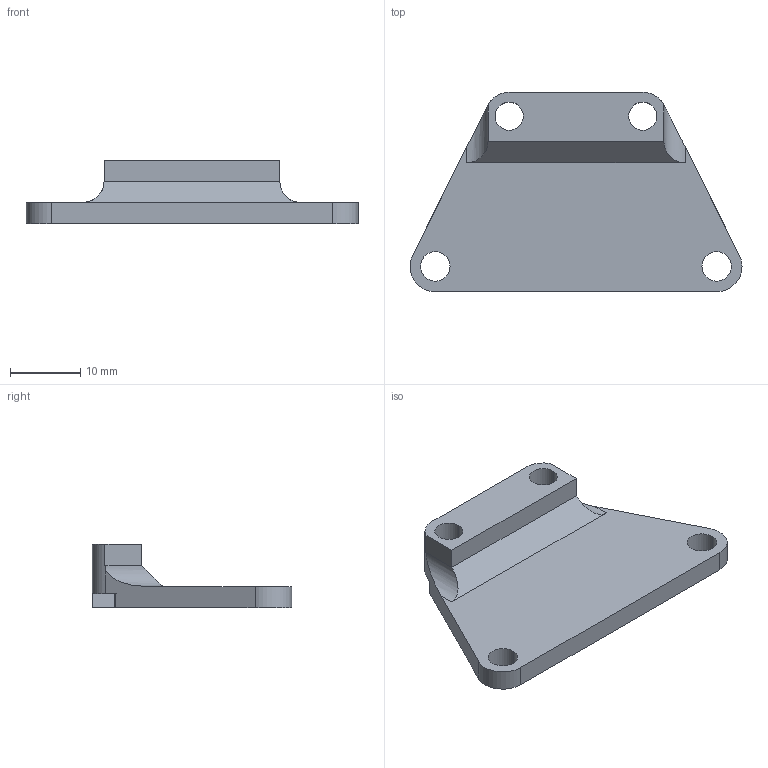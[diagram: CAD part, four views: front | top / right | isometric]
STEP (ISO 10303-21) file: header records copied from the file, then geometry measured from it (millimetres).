
FILE_DESCRIPTION (( 'STEP AP203' ), '1' );
FILE_NAME ('Limit Switch mount^Retro fit new axes.STEP', '2024-07-13T16:26:54', ( '' ), ( '' ), 'SwSTEP 2.0', 'SolidWorks 2020', '' );
FILE_SCHEMA (( 'CONFIG_CONTROL_DESIGN' ));
Length unit declared in the file: millimetre
Products named in the file (1): Limit Switch mount^Retro fit new axes
Bounding box: 47.2 x 28.35 x 9 mm (x, y, z)
Volume: 3902.2 mm3; surface area: 2980.9 mm2
Topology: 1 solids, 1 shells, 36 faces, 100 edges, 66 vertices
Faces by surface type: plane 21, cylinder 15
Entity records: 1249 total; most frequent: CARTESIAN_POINT 221, ORIENTED_EDGE 200, DIRECTION 194, EDGE_CURVE 100, VECTOR 68, LINE 68, VERTEX_POINT 66, AXIS2_PLACEMENT_3D 63
